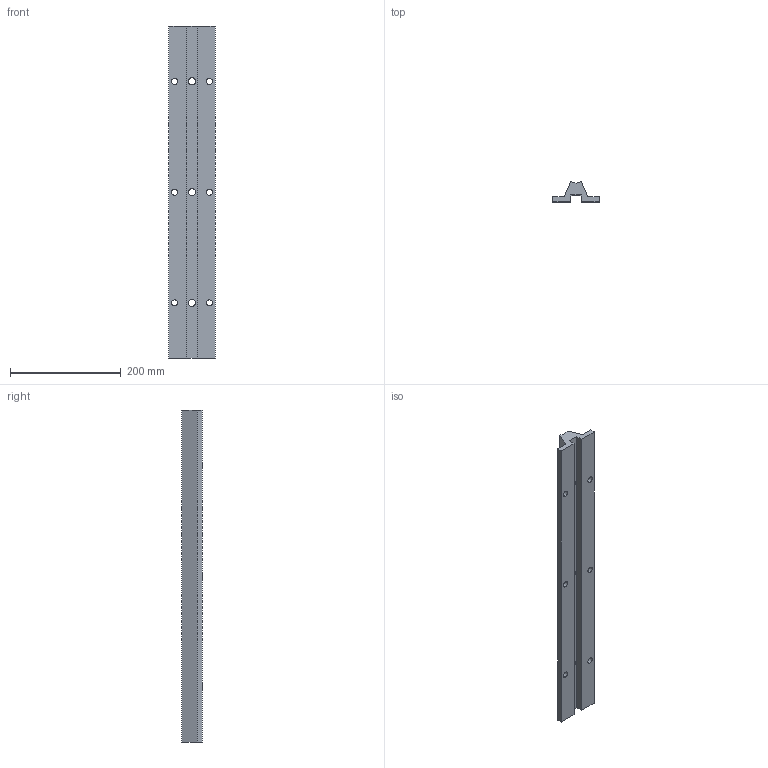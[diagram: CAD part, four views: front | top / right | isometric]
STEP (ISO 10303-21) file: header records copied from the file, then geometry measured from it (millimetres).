
FILE_DESCRIPTION (( 'STEP AP203' ), '1' );
FILE_NAME ('KWU50-50 T1-T2.step', '2020-03-23T07:54:23', ( '' ), ( '' ), 'SwSTEP 2.0', 'SolidWorks 2019', '' );
FILE_SCHEMA (( 'CONFIG_CONTROL_DESIGN' ));
Length unit declared in the file: millimetre
Products named in the file (2): KWU50-50 T1-T2
Bounding box: 84 x 36.78 x 599.5 mm (x, y, z)
Volume: 792056.4 mm3; surface area: 154456.9 mm2
Topology: 1 solids, 1 shells, 33 faces, 96 edges, 62 vertices
Faces by surface type: cylinder 18, plane 15
Entity records: 1283 total; most frequent: CARTESIAN_POINT 211, ORIENTED_EDGE 192, DIRECTION 190, EDGE_CURVE 96, AXIS2_PLACEMENT_3D 65, VERTEX_POINT 62, VECTOR 60, LINE 60
